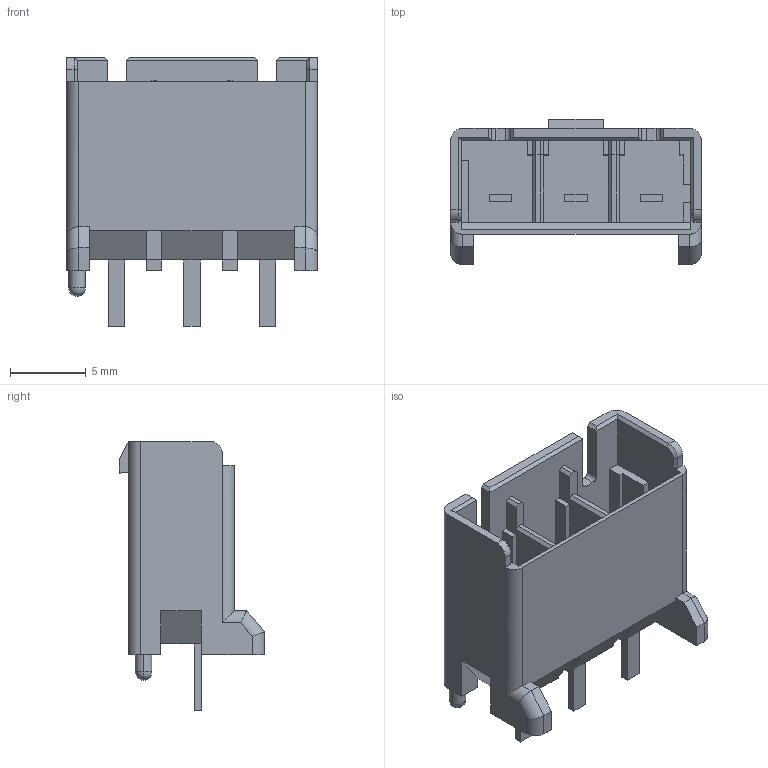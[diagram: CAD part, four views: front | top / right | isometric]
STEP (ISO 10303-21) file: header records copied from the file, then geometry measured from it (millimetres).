
FILE_DESCRIPTION((''),'2;1');
FILE_NAME('C-6-1376383-2','2016-05-17T',('workeradm'),('Tyco Electronics Ltd.'),'CREO PARAMETRIC BY PTC INC, 2015200','CREO PARAMETRIC BY PTC INC, 2015200','');
FILE_SCHEMA(('AUTOMOTIVE_DESIGN { 1 0 10303 214 1 1 1 1 }'));
Length unit declared in the file: millimetre
Products named in the file (1): C-6-1376383-2
Bounding box: 16.6 x 9.6 x 17.8 mm (x, y, z)
Volume: 696.1 mm3; surface area: 1573.7 mm2
Topology: 1 solids, 1 shells, 196 faces, 524 edges, 337 vertices
Faces by surface type: plane 174, cylinder 18, sphere 2, cone 2
Entity records: 6036 total; most frequent: CARTESIAN_POINT 1111, ORIENTED_EDGE 1044, DIRECTION 936, EDGE_CURVE 522, VECTOR 488, LINE 488, VERTEX_POINT 337, AXIS2_PLACEMENT_3D 224
